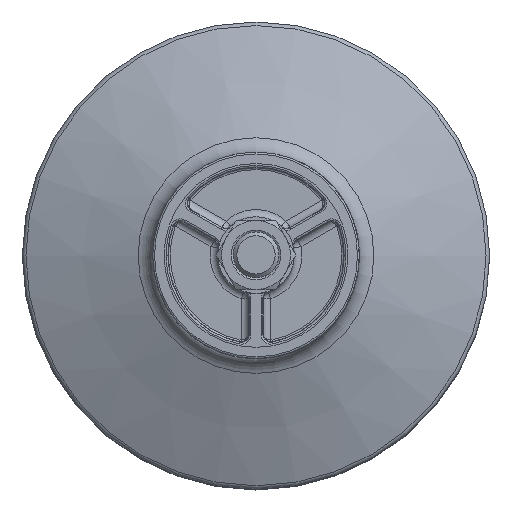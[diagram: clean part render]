
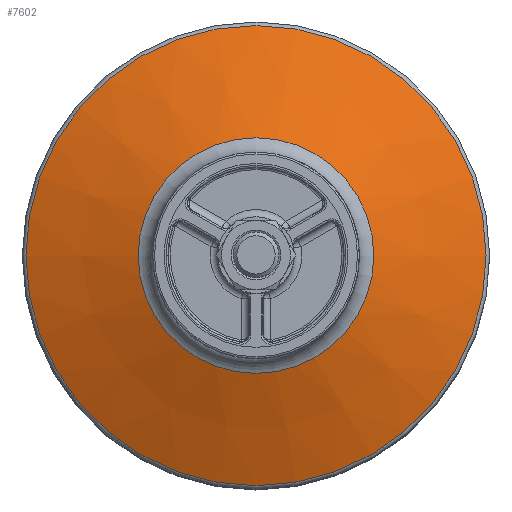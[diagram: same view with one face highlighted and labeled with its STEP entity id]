
A CAD part, top view. The second image highlights one B-rep face of the part: STEP entity #7602.
In plain terms, the highlighted conical face has half-angle 68 degrees and reference radius 30.752 mm.
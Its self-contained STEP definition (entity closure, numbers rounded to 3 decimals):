
#6269=FACE_BOUND('',#9296,.T.);
#6270=FACE_BOUND('',#9297,.T.);
#6565=CONICAL_SURFACE('',#19063,30.752,68.);
#7602=ADVANCED_FACE('',(#6269,#6270),#6565,.T.);
#9296=EDGE_LOOP('',(#10919));
#9297=EDGE_LOOP('',(#10920));
#10345=CIRCLE('',#19060,30.752);
#10346=CIRCLE('',#19062,60.062);
#10919=ORIENTED_EDGE('',*,*,#16014,.T.);
#10920=ORIENTED_EDGE('',*,*,#16013,.F.);
#14735=VERTEX_POINT('',#23340);
#14736=VERTEX_POINT('',#23343);
#16013=EDGE_CURVE('',#14735,#14735,#10345,.T.);
#16014=EDGE_CURVE('',#14736,#14736,#10346,.T.);
#19060=AXIS2_PLACEMENT_3D('',#23339,#20211,#20212);
#19062=AXIS2_PLACEMENT_3D('',#23342,#20215,#20216);
#19063=AXIS2_PLACEMENT_3D('',#23344,#20217,#20218);
#20211=DIRECTION('',(0.,0.,1.));
#20212=DIRECTION('',(-1.,0.,0.));
#20215=DIRECTION('',(0.,0.,1.));
#20216=DIRECTION('',(-1.,0.,0.));
#20217=DIRECTION('',(0.,0.,-1.));
#20218=DIRECTION('',(-1.,0.,0.));
#23339=CARTESIAN_POINT('',(0.,0.,50.437));
#23340=CARTESIAN_POINT('',(-30.752,0.,50.437));
#23342=CARTESIAN_POINT('',(0.,0.,38.595));
#23343=CARTESIAN_POINT('',(-60.062,0.,38.595));
#23344=CARTESIAN_POINT('',(0.,0.,50.437));
